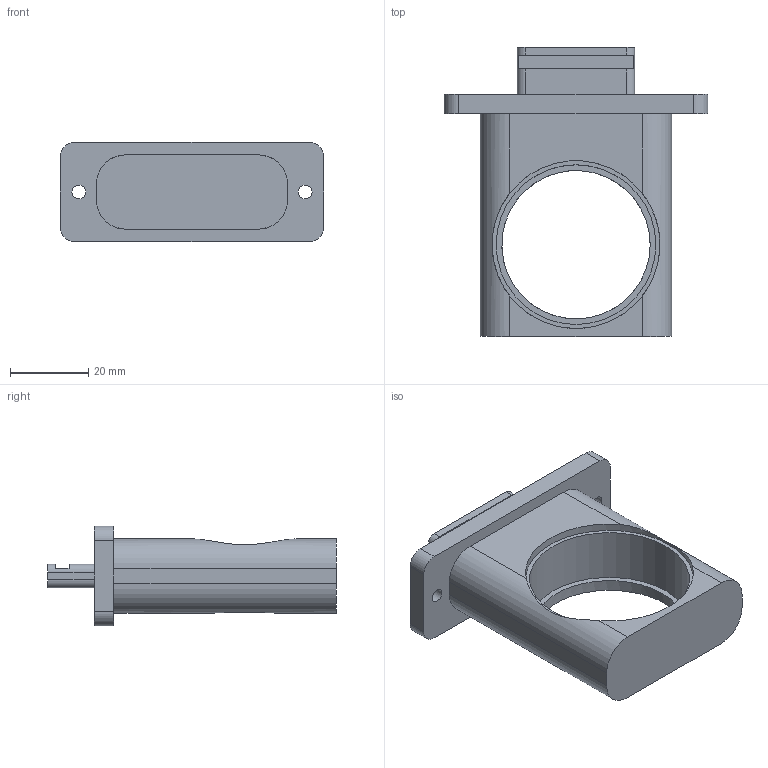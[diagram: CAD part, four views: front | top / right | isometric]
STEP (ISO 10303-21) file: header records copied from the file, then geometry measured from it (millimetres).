
FILE_DESCRIPTION(/* description */ (''),/* implementation_level */ '2;1');
FILE_NAME(/* name */ 'C:\Users\strothej\Documents\ActualDocuments\MicroscopeParts\TwoPhotonSystem\ScanningMechanics\v37\Drawings\Collection_Pre_Filter.stp',/* time_stamp */ '2017-11-14T11:05:55-08:00',/* author */ ('strothej'),/* organization */ (''),/* preprocessor_version */ 'ST-DEVELOPER v16.1',/* originating_system */ 'Autodesk Inventor 2016',/* authorisation */ '');
FILE_SCHEMA (('AUTOMOTIVE_DESIGN { 1 0 10303 214 3 1 1 }'));
Length unit declared in the file: millimetre
Products named in the file (1): Collection_Pre_Filter
Bounding box: 67.5 x 74 x 25.5 mm (x, y, z)
Volume: 36139.6 mm3; surface area: 12384.9 mm2
Topology: 1 solids, 1 shells, 41 faces, 113 edges, 76 vertices
Faces by surface type: plane 24, cylinder 17
Full cylindrical faces by diameter (mm): 3.5 x2, 38 x1, 40.9 x1, 43 x1
Entity records: 1342 total; most frequent: CARTESIAN_POINT 270, DIRECTION 224, ORIENTED_EDGE 208, EDGE_CURVE 104, AXIS2_PLACEMENT_3D 82, VERTEX_POINT 72, LINE 60, VECTOR 60
